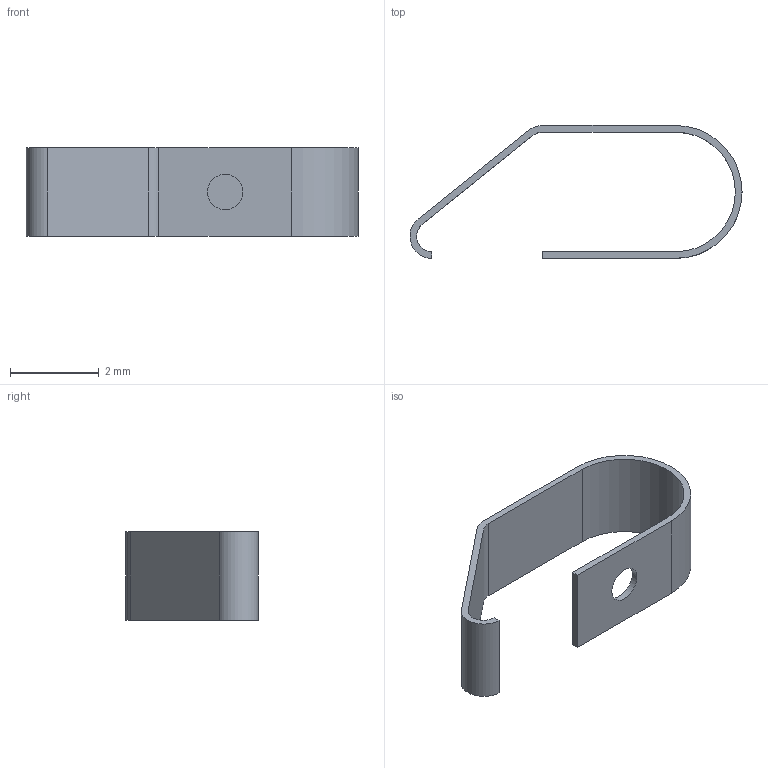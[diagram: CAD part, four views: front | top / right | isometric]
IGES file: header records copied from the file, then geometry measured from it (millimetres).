
Start section:  PTC IGES file: 6G2075030B.igs
Global section: file name: 6G2075030B.igs; native system: Creo Parametric by PTC Inc.; preprocessor: 2015200; author: jairo; organization: Unknown; date: 20180319.142331; units: millimetre
Bounding box: 7.5 x 3 x 2 mm (x, y, z)
Surface area: 64.5 mm2 (no closed solid volume)
Topology: 0 solids, 0 shells, 18 faces, 96 edges, 96 vertices
Faces by surface type: bspline 10, revolution 8
